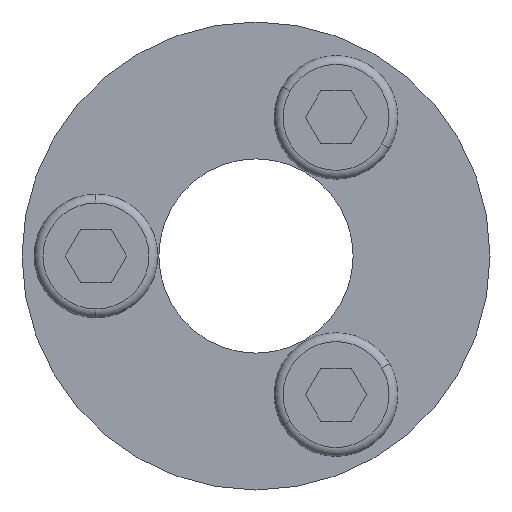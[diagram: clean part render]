
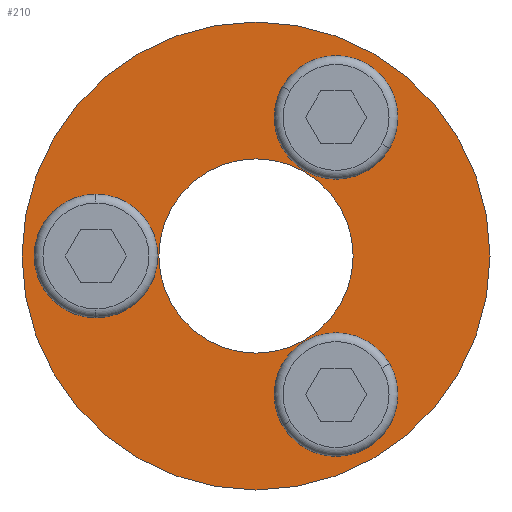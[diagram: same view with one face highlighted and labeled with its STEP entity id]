
A CAD part, left-side view. The second image highlights one B-rep face of the part: STEP entity #210.
In plain terms, the highlighted planar face has unit normal (-1, 0, 0).
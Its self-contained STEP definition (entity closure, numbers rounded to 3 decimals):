
#25 = VERTEX_POINT ( 'NONE', #962 ) ;
#99 = VERTEX_POINT ( 'NONE', #851 ) ;
#151 = VERTEX_POINT ( 'NONE', #1139 ) ;
#152 = EDGE_CURVE ( 'NONE', #99, #151, #1138, .T. ) ;
#180 = EDGE_CURVE ( 'NONE', #195, #181, #1218, .T. ) ;
#181 = VERTEX_POINT ( 'NONE', #1213 ) ;
#190 = VERTEX_POINT ( 'NONE', #1197 ) ;
#195 = VERTEX_POINT ( 'NONE', #1189 ) ;
#196 = VERTEX_POINT ( 'NONE', #1188 ) ;
#209 = EDGE_CURVE ( 'NONE', #181, #195, #1113, .T. ) ;
#210 = ADVANCED_FACE ( 'NONE', ( #1109, #1108, #1107, #1106, #1105 ), #1104, .F. ) ;
#211 = EDGE_LOOP ( 'NONE', ( #212, #214 ) ) ;
#212 = ORIENTED_EDGE ( 'NONE', *, *, #213, .F. ) ;
#213 = EDGE_CURVE ( 'NONE', #231, #25, #1097, .T. ) ;
#214 = ORIENTED_EDGE ( 'NONE', *, *, #280, .F. ) ;
#215 = EDGE_LOOP ( 'NONE', ( #234, #236 ) ) ;
#219 = EDGE_CURVE ( 'NONE', #196, #190, #1090, .T. ) ;
#220 = ORIENTED_EDGE ( 'NONE', *, *, #180, .F. ) ;
#221 = EDGE_LOOP ( 'NONE', ( #222, #223 ) ) ;
#222 = ORIENTED_EDGE ( 'NONE', *, *, #219, .T. ) ;
#223 = ORIENTED_EDGE ( 'NONE', *, *, #224, .T. ) ;
#224 = EDGE_CURVE ( 'NONE', #190, #196, #1081, .T. ) ;
#231 = VERTEX_POINT ( 'NONE', #1059 ) ;
#234 = ORIENTED_EDGE ( 'NONE', *, *, #235, .F. ) ;
#235 = EDGE_CURVE ( 'NONE', #151, #99, #1040, .T. ) ;
#236 = ORIENTED_EDGE ( 'NONE', *, *, #152, .F. ) ;
#237 = EDGE_LOOP ( 'NONE', ( #238, #240 ) ) ;
#238 = ORIENTED_EDGE ( 'NONE', *, *, #239, .F. ) ;
#239 = EDGE_CURVE ( 'NONE', #266, #263, #1035, .T. ) ;
#240 = ORIENTED_EDGE ( 'NONE', *, *, #265, .F. ) ;
#241 = EDGE_LOOP ( 'NONE', ( #242, #220 ) ) ;
#242 = ORIENTED_EDGE ( 'NONE', *, *, #209, .F. ) ;
#263 = VERTEX_POINT ( 'NONE', #1378 ) ;
#265 = EDGE_CURVE ( 'NONE', #263, #266, #1324, .T. ) ;
#266 = VERTEX_POINT ( 'NONE', #1255 ) ;
#280 = EDGE_CURVE ( 'NONE', #25, #231, #1320, .T. ) ;
#851 = CARTESIAN_POINT ( 'NONE',  ( 0., -3.102, 8.673 ) ) ;
#962 = CARTESIAN_POINT ( 'NONE',  ( 0., -5.96, -7.023 ) ) ;
#1031 = DIRECTION ( 'NONE',  ( 0., 0., 1. ) ) ;
#1032 = DIRECTION ( 'NONE',  ( -1., 0., 0. ) ) ;
#1033 = CARTESIAN_POINT ( 'NONE',  ( 0., 9.063, 0. ) ) ;
#1034 = AXIS2_PLACEMENT_3D ( 'NONE', #1033, #1032, #1031 ) ;
#1035 = CIRCLE ( 'NONE', #1034, 1.65 ) ;
#1036 = DIRECTION ( 'NONE',  ( 0., -0.866, -0.5 ) ) ;
#1037 = DIRECTION ( 'NONE',  ( -1., 0., 0. ) ) ;
#1038 = CARTESIAN_POINT ( 'NONE',  ( 0., -4.531, 7.848 ) ) ;
#1039 = AXIS2_PLACEMENT_3D ( 'NONE', #1038, #1037, #1036 ) ;
#1040 = CIRCLE ( 'NONE', #1039, 1.65 ) ;
#1059 = CARTESIAN_POINT ( 'NONE',  ( 0., -3.102, -8.673 ) ) ;
#1077 = DIRECTION ( 'NONE',  ( 0., 0., 1. ) ) ;
#1078 = DIRECTION ( 'NONE',  ( -1., 0., 0. ) ) ;
#1079 = CARTESIAN_POINT ( 'NONE',  ( 0., 0., 0. ) ) ;
#1080 = AXIS2_PLACEMENT_3D ( 'NONE', #1079, #1078, #1077 ) ;
#1081 = CIRCLE ( 'NONE', #1080, 13.25 ) ;
#1082 = DIRECTION ( 'NONE',  ( 0., 0., 1. ) ) ;
#1083 = DIRECTION ( 'NONE',  ( -1., 0., 0. ) ) ;
#1084 = CARTESIAN_POINT ( 'NONE',  ( 0., 0., 0. ) ) ;
#1085 = AXIS2_PLACEMENT_3D ( 'NONE', #1084, #1083, #1082 ) ;
#1090 = CIRCLE ( 'NONE', #1085, 13.25 ) ;
#1093 = DIRECTION ( 'NONE',  ( 0., 0.866, -0.5 ) ) ;
#1094 = DIRECTION ( 'NONE',  ( -1., 0., 0. ) ) ;
#1095 = CARTESIAN_POINT ( 'NONE',  ( 0., -4.531, -7.848 ) ) ;
#1096 = AXIS2_PLACEMENT_3D ( 'NONE', #1095, #1094, #1093 ) ;
#1097 = CIRCLE ( 'NONE', #1096, 1.65 ) ;
#1098 = DIRECTION ( 'NONE',  ( 0., 0., -1. ) ) ;
#1101 = DIRECTION ( 'NONE',  ( 1., 0., 0. ) ) ;
#1102 = CARTESIAN_POINT ( 'NONE',  ( 0., 5.5, 0. ) ) ;
#1103 = AXIS2_PLACEMENT_3D ( 'NONE', #1102, #1101, #1098 ) ;
#1104 = PLANE ( 'NONE',  #1103 ) ;
#1105 = FACE_OUTER_BOUND ( 'NONE', #221, .T. ) ;
#1106 = FACE_BOUND ( 'NONE', #241, .T. ) ;
#1107 = FACE_BOUND ( 'NONE', #237, .T. ) ;
#1108 = FACE_BOUND ( 'NONE', #215, .T. ) ;
#1109 = FACE_BOUND ( 'NONE', #211, .T. ) ;
#1110 = DIRECTION ( 'NONE',  ( 0., 0., 1. ) ) ;
#1111 = DIRECTION ( 'NONE',  ( -1., 0., 0. ) ) ;
#1112 = AXIS2_PLACEMENT_3D ( 'NONE', #1169, #1111, #1110 ) ;
#1113 = CIRCLE ( 'NONE', #1112, 5.5 ) ;
#1134 = DIRECTION ( 'NONE',  ( 0., -0.866, -0.5 ) ) ;
#1135 = DIRECTION ( 'NONE',  ( -1., 0., 0. ) ) ;
#1136 = CARTESIAN_POINT ( 'NONE',  ( 0., -4.531, 7.848 ) ) ;
#1137 = AXIS2_PLACEMENT_3D ( 'NONE', #1136, #1135, #1134 ) ;
#1138 = CIRCLE ( 'NONE', #1137, 1.65 ) ;
#1139 = CARTESIAN_POINT ( 'NONE',  ( 0., -5.96, 7.023 ) ) ;
#1169 = CARTESIAN_POINT ( 'NONE',  ( 0., 0., 0. ) ) ;
#1188 = CARTESIAN_POINT ( 'NONE',  ( 0., 0., 13.25 ) ) ;
#1189 = CARTESIAN_POINT ( 'NONE',  ( 0., 0., -5.5 ) ) ;
#1197 = CARTESIAN_POINT ( 'NONE',  ( 0., 0., -13.25 ) ) ;
#1213 = CARTESIAN_POINT ( 'NONE',  ( 0., 0., 5.5 ) ) ;
#1214 = DIRECTION ( 'NONE',  ( 0., 0., 1. ) ) ;
#1215 = DIRECTION ( 'NONE',  ( -1., 0., 0. ) ) ;
#1216 = CARTESIAN_POINT ( 'NONE',  ( 0., 0., 0. ) ) ;
#1217 = AXIS2_PLACEMENT_3D ( 'NONE', #1216, #1215, #1214 ) ;
#1218 = CIRCLE ( 'NONE', #1217, 5.5 ) ;
#1255 = CARTESIAN_POINT ( 'NONE',  ( 0., 9.063, 1.65 ) ) ;
#1256 = DIRECTION ( 'NONE',  ( 0., 0., 1. ) ) ;
#1257 = DIRECTION ( 'NONE',  ( -1., 0., 0. ) ) ;
#1258 = AXIS2_PLACEMENT_3D ( 'NONE', #1365, #1257, #1256 ) ;
#1320 = CIRCLE ( 'NONE', #1411, 1.65 ) ;
#1324 = CIRCLE ( 'NONE', #1258, 1.65 ) ;
#1365 = CARTESIAN_POINT ( 'NONE',  ( 0., 9.063, 0. ) ) ;
#1378 = CARTESIAN_POINT ( 'NONE',  ( 0., 9.063, -1.65 ) ) ;
#1408 = DIRECTION ( 'NONE',  ( 0., 0.866, -0.5 ) ) ;
#1409 = DIRECTION ( 'NONE',  ( -1., 0., 0. ) ) ;
#1410 = CARTESIAN_POINT ( 'NONE',  ( 0., -4.531, -7.848 ) ) ;
#1411 = AXIS2_PLACEMENT_3D ( 'NONE', #1410, #1409, #1408 ) ;
